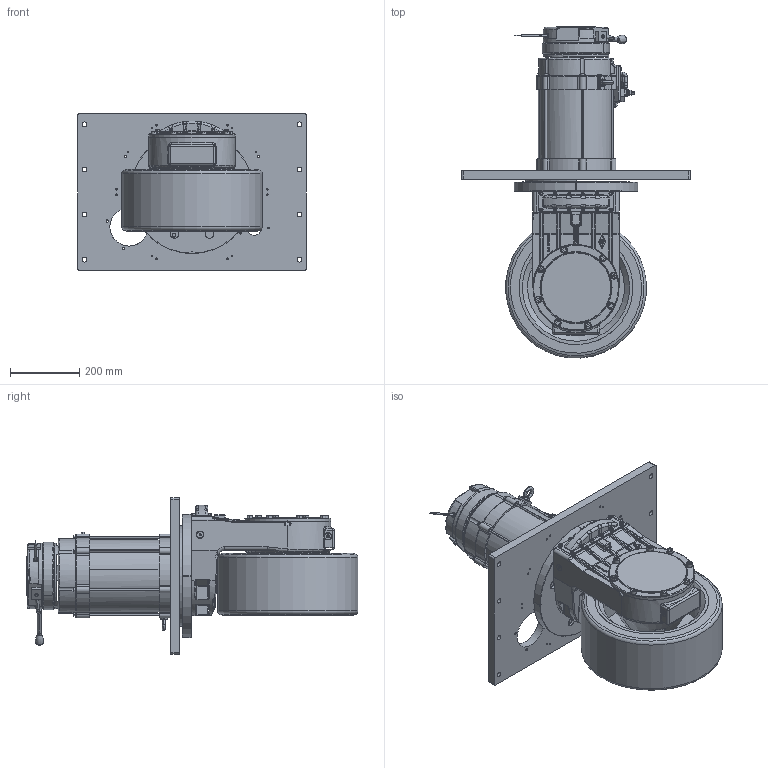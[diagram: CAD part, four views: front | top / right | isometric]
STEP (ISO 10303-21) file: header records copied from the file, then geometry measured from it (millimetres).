
FILE_DESCRIPTION (( 'STEP AP214' ), '1' );
FILE_NAME ('PLT-406P8000S-22.5-48VS.STEP', '2024-05-11T03:03:59', ( 'Admin' ), ( '' ), 'SwSTEP 2.0', 'SolidWorks 2021', '' );
FILE_SCHEMA (( 'AUTOMOTIVE_DESIGN' ));
Length unit declared in the file: millimetre
Products named in the file (1): PLT-406P8000S-22.5-48VS
Bounding box: 660 x 956.75 x 450 mm (x, y, z)
Surface area: 2524712 mm2 (no closed solid volume)
Topology: 0 solids, 192 shells, 1842 faces, 6753 edges, 4872 vertices
Faces by surface type: cylinder 642, plane 592, torus 229, bspline 208, cone 125, sphere 46
Full cylindrical faces by diameter (mm): 4.2 x12, 5 x7, 6.8 x4, 10.5 x1, 12.5 x6, 14 x8, 15 x2, 42 x2, 44.5 x1, 110.5 x1, 279 x2, 328 x3, 406 x1
Entity records: 142938 total; most frequent: CARTESIAN_POINT 74847, ORIENTED_EDGE 9948, DIRECTION 7164, EDGE_CURVE 6639, VERTEX_POINT 4865, B_SPLINE_CURVE_WITH_KNOTS 3949, AXIS2_PLACEMENT_3D 2919, EDGE_LOOP 2323
